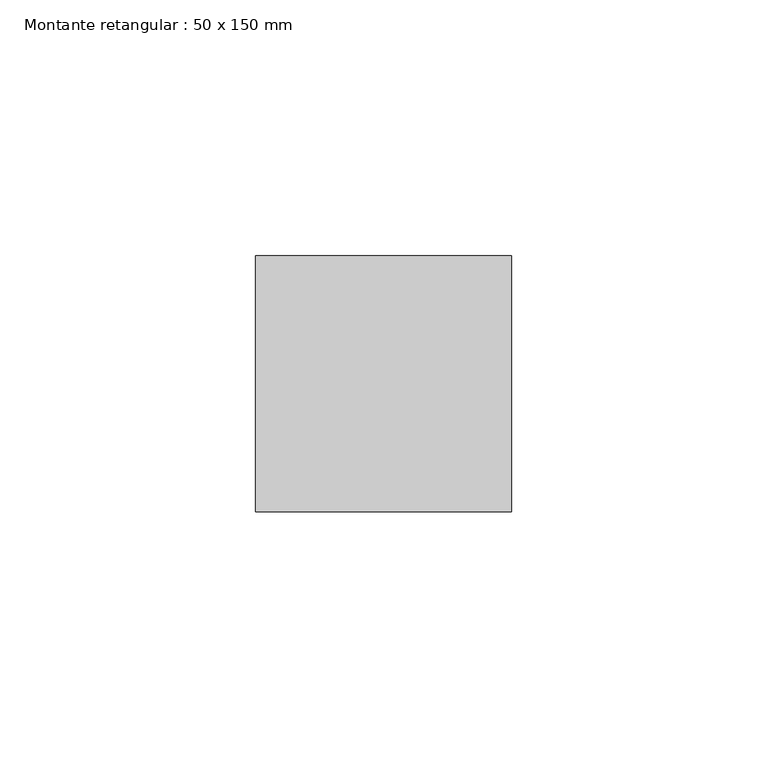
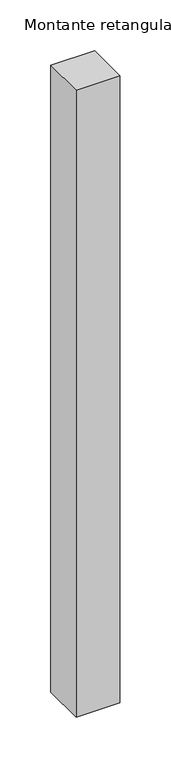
"""IFC4 building model written with IfcOpenShell, lengths in millimetres: member geometry, Montante retangular : 50 x 150 mm."""

from ifc_helpers import new_model, si_unit, frame, origin, place, context, project, spatial, polyline, outline, extrude, source, transform, mapped, element, save


def montante_retangular_50_x_150_mm_d6aa3abf(model_context):
    return source(origin(), model_context, "Body", "SweptSolid", [
        extrude(outline(polyline([(0.0, 25.0), (0.0, -25.0), (-50.0, -25.0), (-50.0, 25.0), (0.0, 25.0)])), frame((0.0, 0.0, -755.0), z_axis=(0.0, 0.0, 1.0), x_axis=(1.0, 0.0, 0.0)), (0.0, 0.0, 1.0), 755.0),
    ])


if __name__ == "__main__":
    model = new_model("IFC4")
    model_context = context("Model", 3, world=origin())
    ifc_project = project(units=[si_unit("LENGTHUNIT", "METRE", prefix="MILLI")], contexts=[model_context])
    site = spatial("IfcSite", under=ifc_project)
    building = spatial("IfcBuilding", under=site)
    placement = place(None, origin())
    montante_retangular_50_x_150_mm_shape = montante_retangular_50_x_150_mm_d6aa3abf(model_context)
    element("IfcMember", 1, ObjectType="Montante retangular : 50 x 150 mm", at=placement, inside=building, context=model_context, shape_type="MappedRepresentation", body=[
        mapped(montante_retangular_50_x_150_mm_shape, transform((0.0, 0.0, 0.0), x_axis=(1.0, 0.0, 0.0), y_axis=(0.0, 1.0, 0.0), z_axis=(0.0, 0.0, 1.0))),
    ])
    save(model, "model.ifc")
